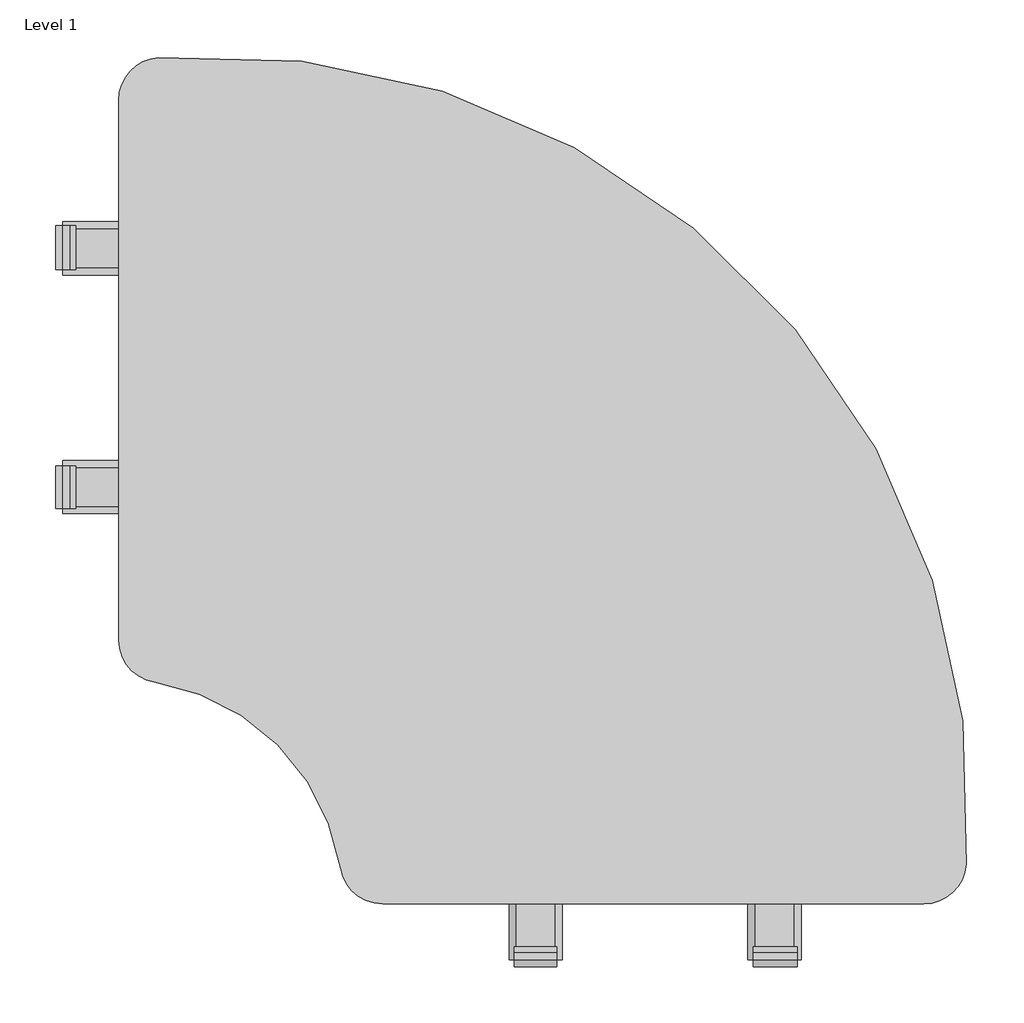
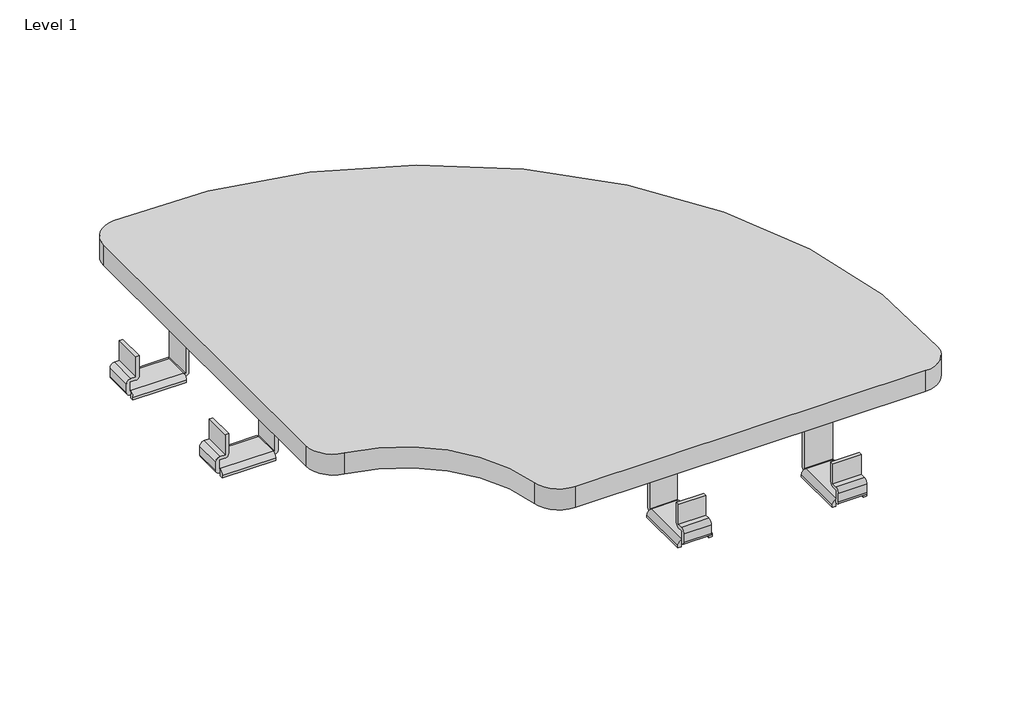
# One storey, incomplete: 1 furniture element.
"""IFC4 building model written with IfcOpenShell, lengths in millimetres."""

from ifc_helpers import new_model, si_unit, origin, place, context, project, spatial, transform, mapped, element, save
from components import furniture_27ac3e44

model = new_model("IFC4")

# Units and contexts
model_context = context("Model", 3, world=origin())
ifc_project = project(units=[si_unit("LENGTHUNIT", "METRE", prefix="MILLI")], contexts=[model_context])

# Site, building, storey
site = spatial("IfcSite", under=ifc_project)
building = spatial("IfcBuilding", under=site)
storey = spatial("IfcBuildingStorey", under=building, Name="Level 1", Elevation=0.0)

# Furniture
placement = place(None, origin())
furniture_shape = furniture_27ac3e44(model_context)
element("IfcFurniture", 1, ObjectType="Krug-Solis-Conecting_Top-Corner : SOL4-LKCRR90", at=placement, inside=storey, context=model_context, shape_type="MappedRepresentation", body=[
    mapped(furniture_shape, transform((14660.6181161, 3686.0243665, 0.0), x_axis=(1.0, 0.0, 0.0), y_axis=(0.0, 1.0, 0.0), z_axis=(0.0, 0.0, 1.0))),
])

save(model, "model.ifc")
